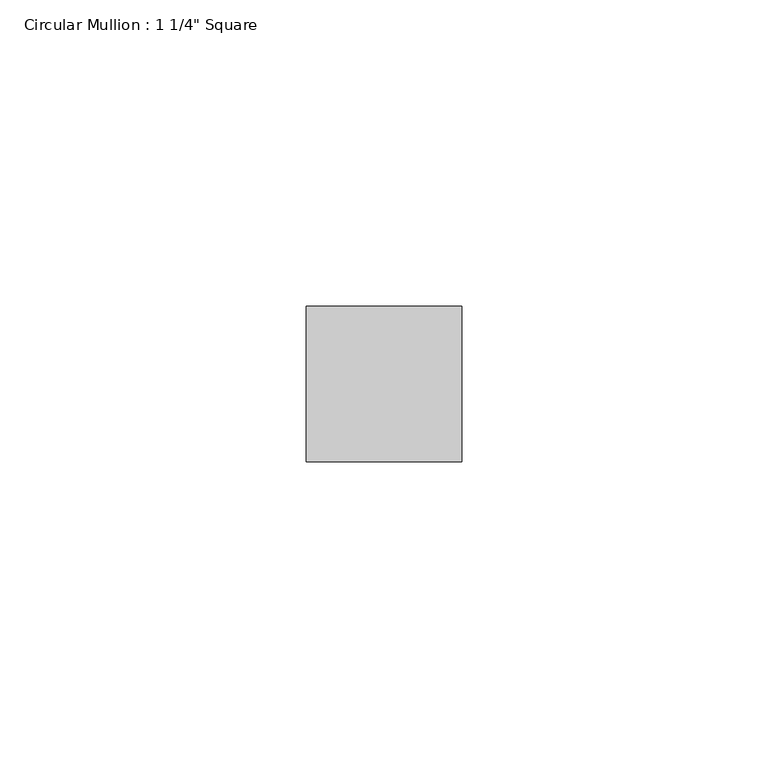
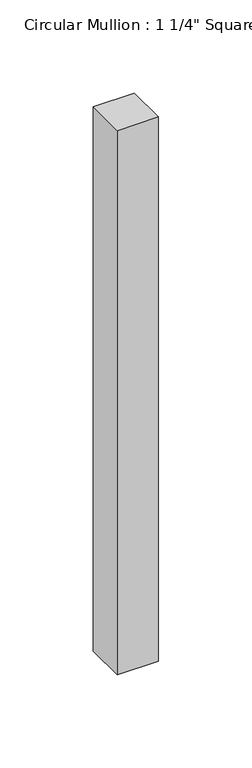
"""IFC4 building model written with IfcOpenShell, lengths in millimetres: member geometry."""

from ifc_helpers import new_model, si_unit, frame, origin, place, context, project, spatial, polyline, outline, extrude, source, transform, mapped, element, save


def member_ec43e15b(model_context):
    return source(origin(), model_context, "Body", "SweptSolid", [
        extrude(outline(polyline([(0.0, 12.7), (0.0, -12.7), (-25.4, -12.7), (-25.4, 12.7), (0.0, 12.7)])), frame((0.0, 0.0, -355.6), z_axis=(0.0, 0.0, 1.0), x_axis=(1.0, 0.0, 0.0)), (0.0, 0.0, 1.0), 355.6),
    ])


if __name__ == "__main__":
    model = new_model("IFC4")
    model_context = context("Model", 3, world=origin())
    ifc_project = project(units=[si_unit("LENGTHUNIT", "METRE", prefix="MILLI")], contexts=[model_context])
    site = spatial("IfcSite", under=ifc_project)
    building = spatial("IfcBuilding", under=site)
    placement = place(None, origin())
    member_shape = member_ec43e15b(model_context)
    element("IfcMember", 1, ObjectType="Circular Mullion : 1 1/4\" Square", at=placement, inside=building, context=model_context, shape_type="MappedRepresentation", body=[
        mapped(member_shape, transform((0.0, 0.0, 0.0), x_axis=(1.0, 0.0, 0.0), y_axis=(0.0, 1.0, 0.0), z_axis=(0.0, 0.0, 1.0))),
    ])
    save(model, "model.ifc")
